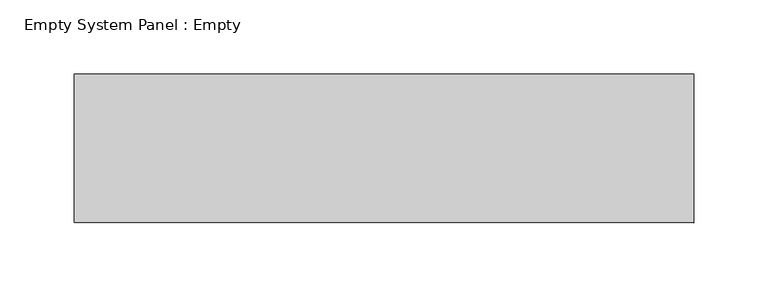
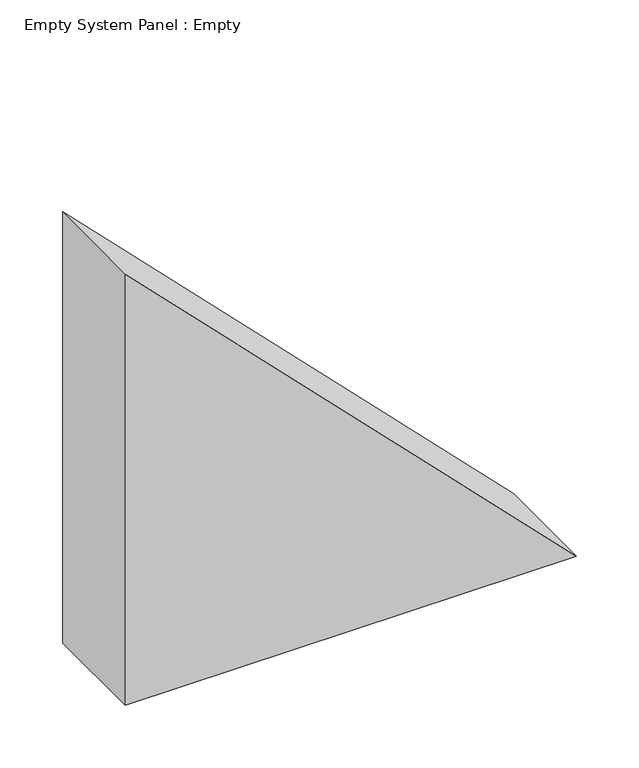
"""IFC4 building model written with IfcOpenShell, lengths in millimetres: plate geometry, Empty System Panel : Empty."""

from ifc_helpers import new_model, si_unit, frame, origin, place, context, project, spatial, polyline, outline, extrude, source, transform, mapped, element, save


def empty_system_panel_empty_0347a2ea(model_context):
    return source(origin(), model_context, "Body", "SweptSolid", [
        extrude(outline(polyline([(0.0, -208.3121825), (0.0, 208.3121825), (421.2853171, -208.3121825), (0.0, -208.3121825)])), frame((0.0, -50.0, 0.0), z_axis=(0.0, 1.0, 0.0), x_axis=(0.0, 0.0, 1.0)), (0.0, 0.0, 1.0), 100.0),
    ])


if __name__ == "__main__":
    model = new_model("IFC4")
    model_context = context("Model", 3, world=origin())
    ifc_project = project(units=[si_unit("LENGTHUNIT", "METRE", prefix="MILLI")], contexts=[model_context])
    site = spatial("IfcSite", under=ifc_project)
    building = spatial("IfcBuilding", under=site)
    placement = place(None, origin())
    empty_system_panel_empty_shape = empty_system_panel_empty_0347a2ea(model_context)
    element("IfcPlate", 1, ObjectType="Empty System Panel : Empty", at=placement, inside=building, context=model_context, shape_type="MappedRepresentation", body=[
        mapped(empty_system_panel_empty_shape, transform((0.0, 0.0, 0.0), x_axis=(1.0, 0.0, 0.0), y_axis=(0.0, 1.0, 0.0), z_axis=(0.0, 0.0, 1.0))),
    ])
    save(model, "model.ifc")
